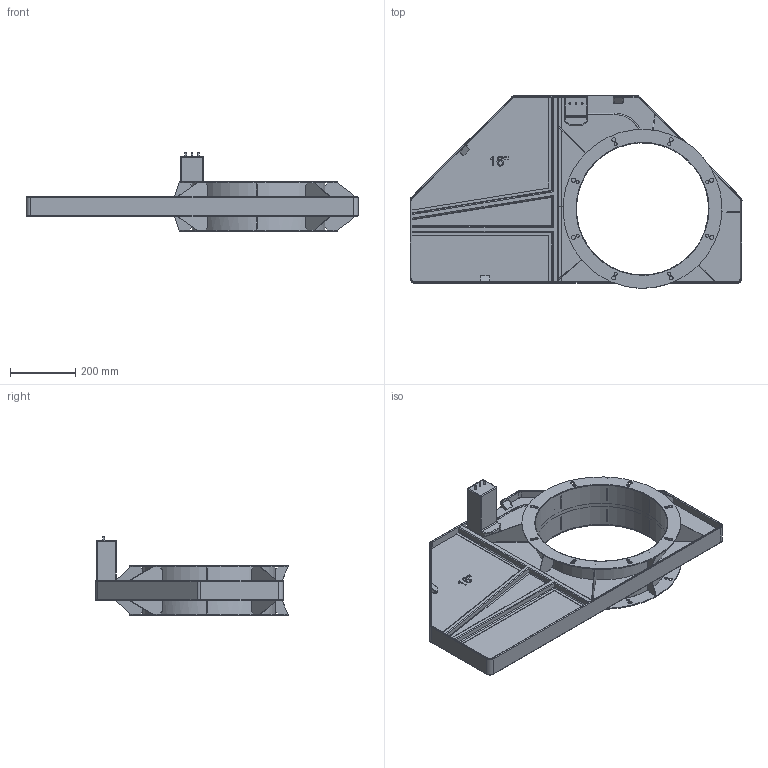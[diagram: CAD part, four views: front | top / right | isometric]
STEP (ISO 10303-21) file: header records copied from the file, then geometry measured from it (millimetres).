
FILE_DESCRIPTION( ('This file contains a STEP AP42 implementation' ,'as created by ZW3D STEP Interface translator.') ,'2;1' );
FILE_NAME( '3D Model-HO216 Body with drive.stp' ,'20 7 8.165525', (''), ('ZWCAD Software Co.'), 'Version 1.0', 'ZW3D to STEP translator', '' );
FILE_SCHEMA(('AUTOMOTIVE_DESIGN'));
Length unit declared in the file: millimetre
Products named in the file (1): 0
Bounding box: 1014.77 x 588.87 x 241.2 mm (x, y, z)
Volume: 7538794.5 mm3; surface area: 1903581.7 mm2
Topology: 25 solids, 25 shells, 1141 faces, 3008 edges, 2061 vertices
Faces by surface type: bspline 1141
Entity records: 38474 total; most frequent: CARTESIAN_POINT 19407, ORIENTED_EDGE 5820, EDGE_CURVE 2910, B_SPLINE_CURVE_WITH_KNOTS 2533, VERTEX_POINT 1878, EDGE_LOOP 1270, FACE_OUTER_BOUND 1141, ADVANCED_FACE 1141
